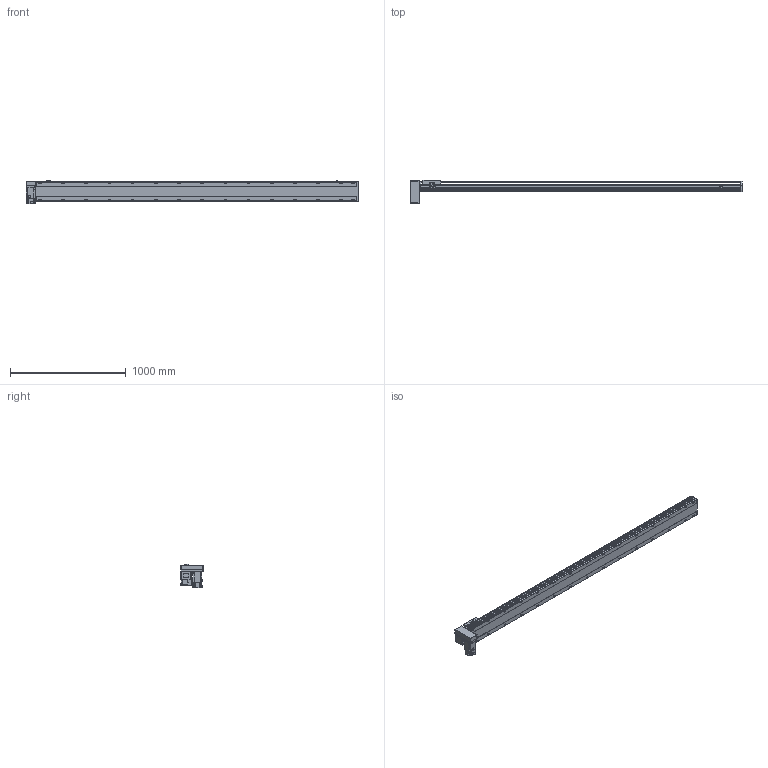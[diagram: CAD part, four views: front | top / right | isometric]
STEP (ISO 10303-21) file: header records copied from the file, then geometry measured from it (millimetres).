
FILE_DESCRIPTION( ( 'STEP AP214' ), '1' );
FILE_NAME( 'x:/temp/worker_5/temp/exporttempdir_3988_47_K7orS/format_0/PBS170-P40-S2500-RD-T75-C1-N(0).stp', '2022-06-08T05:37:52', ( 'License CC BY-ND 4.0' ), ( 'CADENAS' ), ' ', 'PARTsolutions', ' ' );
FILE_SCHEMA( ( 'AUTOMOTIVE_DESIGN { 1 0 10303 214 1 1 1 1 }' ) );
Length unit declared in the file: millimetre
Products named in the file (7): PBS170-P40-S2500-RD-T75-C1-N(0); _PBS170-S2500()_body; _PBS170T-RD_motors; _T75-p1; _PBS170_sliser; _PBS170_plant; _PBS170_sensor
Assembly tree (8 placements, depth 2):
  PBS170-P40-S2500-RD-T75-C1-N(0)
    _PBS170-S2500()_body
    _PBS170T-RD_motors
    _T75-p1
    _PBS170_sliser
    _PBS170_plant
    _PBS170_sensor  x3
Bounding box: 2863 x 201 x 205.3 mm (x, y, z)
Volume: 21677293.2 mm3; surface area: 2730093.3 mm2
Topology: 8 solids, 8 shells, 1194 faces, 3155 edges, 2056 vertices
Faces by surface type: plane 729, cylinder 395, cone 60, sphere 8, torus 2
Full cylindrical faces by diameter (mm): 3.242 x4, 4 x2, 4.4 x4, 4.5 x6, 4.917 x4, 6 x9, 6.647 x38, 7 x2, 7.5 x4, 8 x8, 8.5 x30, 10 x4, 10.5 x30, 11 x2, 30 x2, 40 x1, 70 x1
Entity records: 44234 total; most frequent: CARTESIAN_POINT 7397, DIRECTION 5790, ORIENTED_EDGE 5448, EDGE_CURVE 2724, AXIS2_PLACEMENT_3D 2047, VERTEX_POINT 1898, LINE 1696, VECTOR 1696
